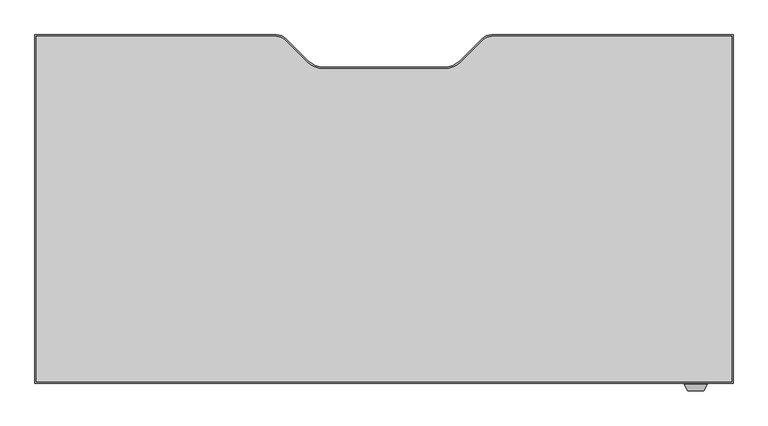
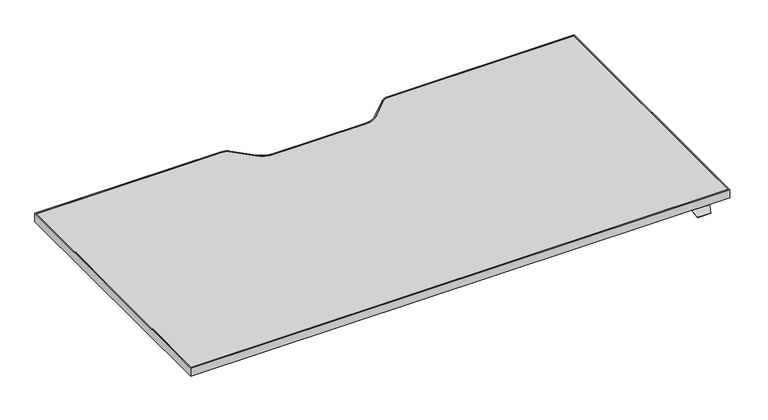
"""IFC4 building model written with IfcOpenShell, lengths in millimetres: furniture geometry, Steelcase Turnstone - Bivi - Height Adjustable Desk - C Base : 30D x 60W."""

from ifc_helpers import new_model, si_unit, point, frame, frame_2d, origin, place, context, project, spatial, polyline, circle_curve, trimmed, segment, composite_curve, outline, extrude, faceted_brep, source, transform, mapped, element, save


def furniture_5335a9a9(model_context):
    return source(origin(), model_context, "Body", "SolidModel", [
        faceted_brep([(316.0177913, -478.5301693, 760.9984131), (316.0177913, -476.0074599, 760.9984131), (316.0177913, -476.0074599, 762.4), (316.0177913, -478.5490853, 762.4), (316.0177913, -479.8594921, 761.3004382), (316.0177913, -479.8594921, 759.8829789), (266.4448135, -478.5490853, 762.4), (266.4448135, -476.0074599, 762.4), (266.4448135, -476.0074599, 760.9984131), (266.4448135, -478.5301693, 760.9984131), (266.4448135, -479.8594921, 759.8829789), (266.4448135, -479.8594921, 761.3004382), (309.0358363, -494.8323429, 748.7367246), (273.4267685, -494.8323429, 748.7367246), (273.0673686, -494.0616074, 747.9659891), (309.3952362, -494.0616074, 747.9659891)], [[[0, 1, 2, 3, 4, 5]], [[6, 7, 8, 9, 10, 11]], [[12, 13, 14, 15]], [[9, 0, 5, 15, 14, 10]], [[1, 0, 9, 8]], [[2, 1, 8, 7]], [[3, 2, 7, 6]], [[3, 6, 11, 13, 12, 4]], [[5, 4, 12, 15]], [[11, 10, 14, 13]]]),
        extrude(outline(composite_curve([segment(polyline([(-1151.2285908, 283.4509147), (-623.9070191, 283.4509147)]), True, "CONTINUOUS"), segment(trimmed(circle_curve(frame_2d((-623.9070191, 254.7489147)), 28.702), [point((-623.9070191, 283.4509147))], [point((-603.6116402, 275.0442935))], False, "CARTESIAN"), True, "CONTINUOUS"), segment(polyline([(-603.6116402, 275.0442935), (-556.0972358, 227.5298891)]), True, "CONTINUOUS"), segment(trimmed(circle_curve(frame_2d((-520.1762113, 263.4509136)), 50.8), [point((-556.0972358, 227.5298891))], [point((-520.1762113, 212.6509136))], True, "CARTESIAN"), True, "CONTINUOUS"), segment(polyline([(-520.1762113, 212.6509136), (-258.2809703, 212.6509136)]), True, "CONTINUOUS"), segment(trimmed(circle_curve(frame_2d((-258.2809703, 263.4509136)), 50.8), [point((-258.2809703, 212.6509136))], [point((-222.3599458, 227.5298891))], True, "CARTESIAN"), True, "CONTINUOUS"), segment(polyline([(-222.3599458, 227.5298891), (-174.8455414, 275.0442935)]), True, "CONTINUOUS"), segment(trimmed(circle_curve(frame_2d((-154.5501625, 254.7489147)), 28.702), [point((-174.8455414, 275.0442935))], [point((-154.5501625, 283.4509147))], False, "CARTESIAN"), True, "CONTINUOUS"), segment(polyline([(-154.5501625, 283.4509147), (372.7714092, 283.4509147), (372.7714092, -478.5490853), (-1151.2285908, -478.5490853), (-1151.2285908, 283.4509147)]), True, "CONTINUOUS")], self_intersect=False), holes=[composite_curve([segment(polyline([(-1147.8487543, 280.1489147), (-1147.8487543, -475.2470853), (369.4694092, -475.2470853), (369.4694092, 280.1489147), (-154.5501625, 280.1489147)]), True, "CONTINUOUS"), segment(trimmed(circle_curve(frame_2d((-154.5501625, 254.7489147)), 25.4), [point((-154.5501625, 280.1489147))], [point((-172.5106748, 272.7094269))], True, "CARTESIAN"), True, "CONTINUOUS"), segment(polyline([(-172.5106748, 272.7094269), (-220.527602, 224.6924998)]), True, "CONTINUOUS"), segment(trimmed(circle_curve(frame_2d((-256.4486265, 260.6135242)), 50.8), [point((-220.527602, 224.6924998))], [point((-256.4486265, 209.8135242))], False, "CARTESIAN"), True, "CONTINUOUS"), segment(polyline([(-256.4486265, 209.8135242), (-389.2285908, 209.8135242), (-522.0085552, 209.8135242)]), True, "CONTINUOUS"), segment(trimmed(circle_curve(frame_2d((-522.0085552, 260.6135242)), 50.8), [point((-522.0085552, 209.8135242))], [point((-557.9295796, 224.6924998))], False, "CARTESIAN"), True, "CONTINUOUS"), segment(polyline([(-557.9295796, 224.6924998), (-605.9465068, 272.7094269)]), True, "CONTINUOUS"), segment(trimmed(circle_curve(frame_2d((-623.9070191, 254.7489147)), 25.4), [point((-605.9465068, 272.7094269))], [point((-623.9070191, 280.1489147))], True, "CARTESIAN"), True, "CONTINUOUS"), segment(polyline([(-623.9070191, 280.1489147), (-1147.8487543, 280.1489147)]), True, "CONTINUOUS")], self_intersect=False)]), frame((0.0, 0.0, 762.4), z_axis=(0.0, 0.0, 1.0), x_axis=(1.0, 0.0, 0.0)), (0.0, 0.0, 1.0), 25.0),
        extrude(outline(composite_curve([segment(polyline([(-1147.8487543, 280.1489147), (-623.9070191, 280.1489147)]), True, "CONTINUOUS"), segment(trimmed(circle_curve(frame_2d((-623.9070191, 254.7489147)), 25.4), [point((-623.9070191, 280.1489147))], [point((-605.9465068, 272.7094269))], False, "CARTESIAN"), True, "CONTINUOUS"), segment(polyline([(-605.9465068, 272.7094269), (-557.9295796, 224.6924998)]), True, "CONTINUOUS"), segment(trimmed(circle_curve(frame_2d((-522.0085552, 260.6135242)), 50.8), [point((-557.9295796, 224.6924998))], [point((-522.0085552, 209.8135242))], True, "CARTESIAN"), True, "CONTINUOUS"), segment(polyline([(-522.0085552, 209.8135242), (-389.2285908, 209.8135242), (-256.4486265, 209.8135242)]), True, "CONTINUOUS"), segment(trimmed(circle_curve(frame_2d((-256.4486265, 260.6135242)), 50.8), [point((-256.4486265, 209.8135242))], [point((-220.527602, 224.6924998))], True, "CARTESIAN"), True, "CONTINUOUS"), segment(polyline([(-220.527602, 224.6924998), (-172.5106748, 272.7094269)]), True, "CONTINUOUS"), segment(trimmed(circle_curve(frame_2d((-154.5501625, 254.7489147)), 25.4), [point((-172.5106748, 272.7094269))], [point((-154.5501625, 280.1489147))], False, "CARTESIAN"), True, "CONTINUOUS"), segment(polyline([(-154.5501625, 280.1489147), (369.4694092, 280.1489147), (369.4694092, -475.2470853), (-1147.8487543, -475.2470853), (-1147.8487543, 280.1489147)]), True, "CONTINUOUS")], self_intersect=False)), frame((0.0, 0.0, 762.4), z_axis=(0.0, 0.0, 1.0), x_axis=(1.0, 0.0, 0.0)), (0.0, 0.0, 1.0), 25.0),
    ])


if __name__ == "__main__":
    model = new_model("IFC4")
    model_context = context("Model", 3, world=origin())
    ifc_project = project(units=[si_unit("LENGTHUNIT", "METRE", prefix="MILLI")], contexts=[model_context])
    site = spatial("IfcSite", under=ifc_project)
    building = spatial("IfcBuilding", under=site)
    placement = place(None, origin())
    furniture_shape = furniture_5335a9a9(model_context)
    element("IfcFurniture", 1, ObjectType="Steelcase Turnstone - Bivi - Height Adjustable Desk - C Base : 30D x 60W", at=placement, inside=building, context=model_context, shape_type="MappedRepresentation", body=[
        mapped(furniture_shape, transform((0.0, 0.0, 0.0), x_axis=(1.0, 0.0, 0.0), y_axis=(0.0, 1.0, 0.0), z_axis=(0.0, 0.0, 1.0))),
    ])
    save(model, "model.ifc")
